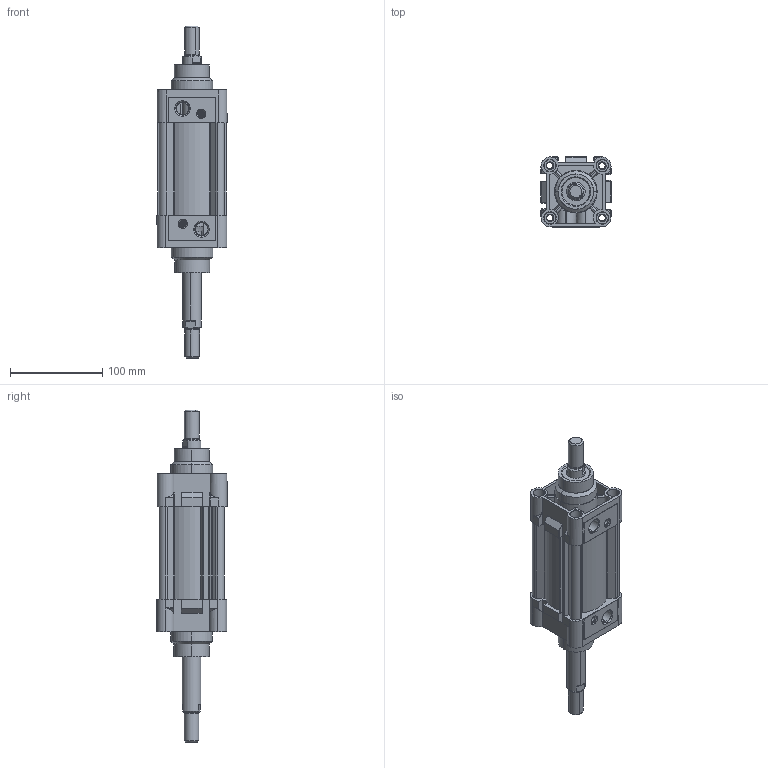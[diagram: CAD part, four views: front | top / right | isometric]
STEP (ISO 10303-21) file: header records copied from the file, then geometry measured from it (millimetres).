
FILE_DESCRIPTION (( 'STEP AP203' ), '1' );
FILE_NAME ('KDNT63X50CIFTMILLI-CYLINDER.STEP', '2016-03-24T10:17:00', ( 'user' ), ( '' ), 'SwSTEP 2.0', 'SolidWorks 2013', '' );
FILE_SCHEMA (( 'CONFIG_CONTROL_DESIGN' ));
Length unit declared in the file: millimetre
Products named in the file (6): Piston Mili 63x50; SAPLAMALI M尳 63x50; KDNT 63X50 BORU; 烰 KAPAK  63; KDNT63X50CIFTMILLI-CYLINDER; ORTA PÝSTON 63 ÇÝFT MÝLLÝ
Assembly tree (6 placements, depth 2):
  KDNT63X50CIFTMILLI-CYLINDER
    烰 KAPAK  63  x2
    ORTA PÝSTON 63 ÇÝFT MÝLLÝ
    Piston Mili 63x50
    SAPLAMALI M尳 63x50
    KDNT 63X50 BORU
Bounding box: 75.8 x 76.06 x 359.3 mm (x, y, z)
Volume: 516011.9 mm3; surface area: 228021.5 mm2
Topology: 8 solids, 8 shells, 894 faces, 2287 edges, 1465 vertices
Faces by surface type: cylinder 430, plane 292, cone 96, bspline 68, torus 8
Entity records: 21274 total; most frequent: CARTESIAN_POINT 6914, ORIENTED_EDGE 2912, DIRECTION 2835, EDGE_CURVE 1456, AXIS2_PLACEMENT_3D 1095, VERTEX_POINT 937, EDGE_LOOP 653, LINE 645
